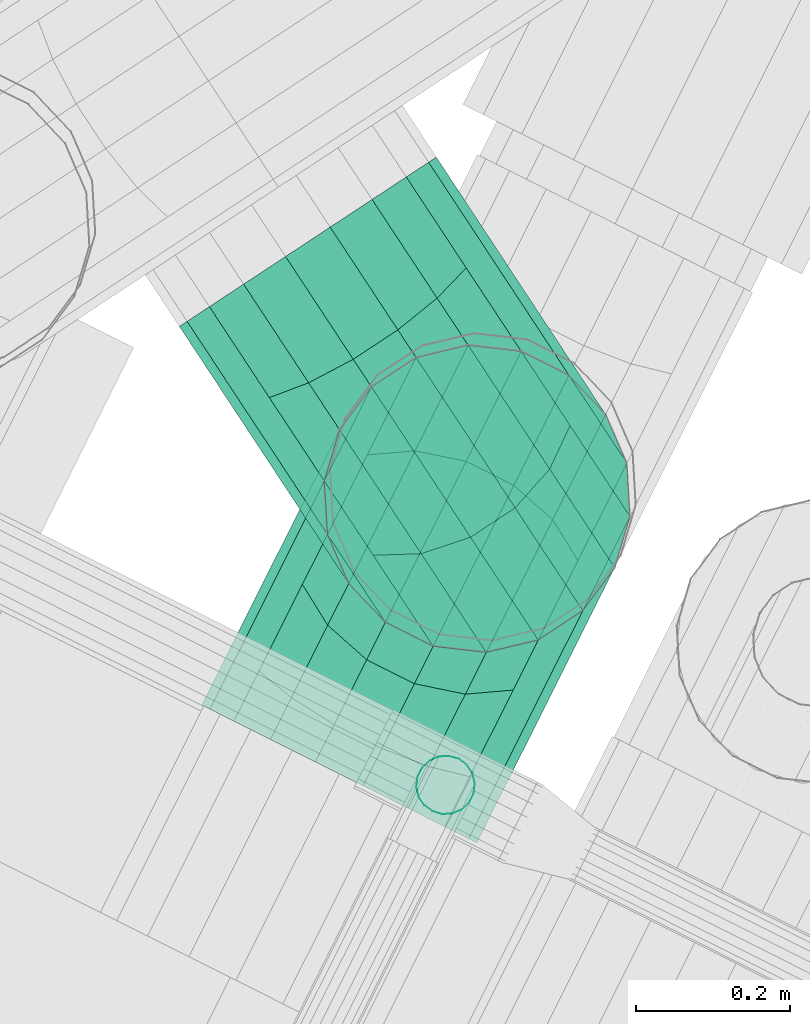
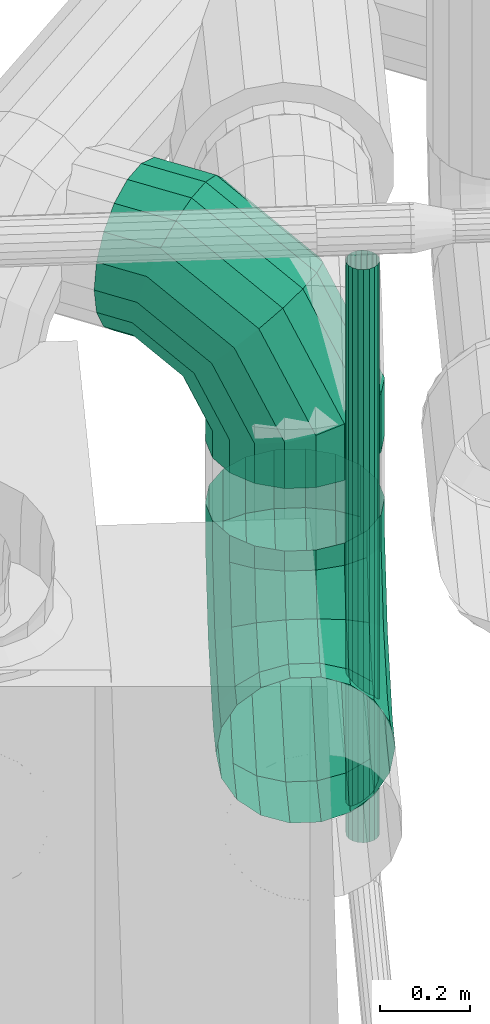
# One storey, part 14 of 206: 3 flow fittings, 1 flow segment.
"""IFC2X3 building model written with IfcOpenShell, lengths in metres."""

from ifc_helpers import new_model, si_unit, derived_unit, direction, frame, origin, place, context, subcontext, project, spatial, face_set, surface_model, source, transform, mapped, material, type_object, type_shapes, element, save


model = new_model("IFC2X3")

# Units and contexts
model_context = context("Model", 3, precision=5.2338327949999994e-05, world=origin(), true_north=direction((0.0, 1.0)))
body_context = subcontext(model_context, "Body", "Model", "MODEL_VIEW")
ifc_project = project(units=[si_unit("LENGTHUNIT", "METRE"), si_unit("AREAUNIT", "SQUARE_METRE"), si_unit("VOLUMEUNIT", "CUBIC_METRE"), si_unit("MASSUNIT", "GRAM", prefix="KILO"), si_unit("PLANEANGLEUNIT", "RADIAN"), derived_unit("THERMALTRANSMITTANCEUNIT", [(si_unit("MASSUNIT", "GRAM", prefix="KILO"), 1), (si_unit("THERMODYNAMICTEMPERATUREUNIT", "KELVIN"), -1), (si_unit("TIMEUNIT", "SECOND"), -3)])], contexts=[model_context])

# Site, building, storey
site_placement = place(None, frame((0.0, 0.0, 0.0), z_axis=(0.0, 0.0, 1.0), x_axis=(0.8939966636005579, -0.4480736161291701, 0.0)))
site = spatial("IfcSite", under=ifc_project, at=site_placement, Name="Default", CompositionType="ELEMENT")
building_placement = place(site_placement, origin())
building = spatial("IfcBuilding", under=site, at=building_placement, CompositionType="ELEMENT")
storey_placement = place(building_placement, origin())
storey = spatial("IfcBuildingStorey", under=building, at=storey_placement, Name="Erdgeschoss", CompositionType="ELEMENT", Elevation=0.0)

# Flow fittings
ifc_material_1 = material(Name="IfcSurfaceStyle #251447")
distribution_element_type_1 = type_object("IfcDistributionElementType", material=ifc_material_1)
shared_shape_1 = source(origin(), body_context, "Body", "SurfaceModel", [
    surface_model("IfcFaceBasedSurfaceModel", [(24.760508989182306, 8.028208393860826, 1.2300000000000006), (24.77257046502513, 8.028208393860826, 1.2984040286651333), (24.77257046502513, 8.11705926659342, 1.2984040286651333), (24.760508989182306, 8.135388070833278, 1.2300000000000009), (24.80730010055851, 8.028208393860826, 1.3585575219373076), (24.80730010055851, 8.10094118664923, 1.3585575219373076), (24.860508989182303, 8.028208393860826, 1.4032050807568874), (24.860508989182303, 8.088977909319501, 1.4032050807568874), (24.92577935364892, 8.028208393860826, 1.4269615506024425), (24.92577935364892, 8.082612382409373, 1.4269615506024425), (24.995238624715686, 8.028208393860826, 1.4269615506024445), (24.995238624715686, 8.082612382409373, 1.4269615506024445), (25.060508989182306, 8.028208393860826, 1.4032050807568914), (25.060508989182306, 8.088977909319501, 1.4032050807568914), (25.1137178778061, 8.028208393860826, 1.3585575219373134), (25.1137178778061, 8.10094118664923, 1.3585575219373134), (25.14844751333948, 8.028208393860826, 1.2984040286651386), (25.14844751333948, 8.117059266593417, 1.2984040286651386), (25.16050898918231, 8.028208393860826, 1.230000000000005), (25.160508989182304, 8.135388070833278, 1.2299999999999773), (25.14844751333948, 8.028208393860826, 1.1615959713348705), (25.14844751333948, 8.153716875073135, 1.1615959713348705), (25.1137178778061, 8.028208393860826, 1.1014424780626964), (25.1137178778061, 8.169834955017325, 1.1014424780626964), (25.06050898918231, 8.028208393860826, 1.0567949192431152), (25.06050898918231, 8.181798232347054, 1.0567949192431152), (24.99523862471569, 8.028208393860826, 1.0330384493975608), (24.99523862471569, 8.188163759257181, 1.0330384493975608), (24.925779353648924, 8.028208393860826, 1.03303844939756), (24.925779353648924, 8.188163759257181, 1.03303844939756), (24.860508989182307, 8.028208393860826, 1.0567949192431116), (24.860508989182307, 8.181798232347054, 1.0567949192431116), (24.807300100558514, 8.028208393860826, 1.1014424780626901), (24.807300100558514, 8.169834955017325, 1.1014424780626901), (24.77257046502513, 8.028208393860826, 1.1615959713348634), (24.77257046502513, 8.153716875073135, 1.1615959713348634), (24.772570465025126, 8.270953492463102, 1.3872549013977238), (24.760508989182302, 8.321028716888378, 1.3371796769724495), (24.80730010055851, 8.22691807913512, 1.4312903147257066), (24.8605089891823, 8.194233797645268, 1.4639745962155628), (24.92577935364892, 8.176842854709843, 1.4813655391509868), (24.99523862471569, 8.176842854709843, 1.481365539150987), (25.060508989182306, 8.194233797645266, 1.4639745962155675), (25.1137178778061, 8.22691807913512, 1.4312903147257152), (25.14844751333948, 8.2709534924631, 1.3872549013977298), (25.160508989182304, 8.321028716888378, 1.3371796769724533), (25.148447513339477, 8.371103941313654, 1.2871044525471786), (25.1137178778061, 8.415139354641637, 1.2430690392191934), (25.060508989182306, 8.447823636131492, 1.210384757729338), (24.99523862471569, 8.465214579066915, 1.192993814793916), (24.92577935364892, 8.465214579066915, 1.192993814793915), (24.860508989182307, 8.447823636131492, 1.210384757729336), (24.807300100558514, 8.415139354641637, 1.2430690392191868), (24.772570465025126, 8.371103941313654, 1.2871044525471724), (24.772570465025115, 8.359804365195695, 1.54114912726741), (24.760508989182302, 8.42820839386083, 1.5228203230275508), (24.807300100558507, 8.29965087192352, 1.557267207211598), (24.8605089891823, 8.255003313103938, 1.5692304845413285), (24.92577935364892, 8.231246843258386, 1.5755960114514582), (24.995238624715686, 8.231246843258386, 1.5755960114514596), (25.060508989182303, 8.25500331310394, 1.56923048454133), (25.113717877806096, 8.29965087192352, 1.557267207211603), (25.148447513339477, 8.359804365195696, 1.541149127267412), (25.160508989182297, 8.428208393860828, 1.5228203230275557), (25.148447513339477, 8.49661242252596, 1.504491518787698), (25.1137178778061, 8.556765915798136, 1.488373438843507), (25.060508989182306, 8.601413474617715, 1.476410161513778), (24.99523862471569, 8.625169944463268, 1.4700446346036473), (24.92577935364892, 8.625169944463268, 1.4700446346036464), (24.8605089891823, 8.601413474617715, 1.4764101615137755), (24.80730010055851, 8.556765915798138, 1.4883734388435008), (24.772570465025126, 8.496612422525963, 1.5044915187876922), (24.77257046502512, 8.359804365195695, 1.6299999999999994), (24.760508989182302, 8.428208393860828, 1.6299999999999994), (24.807300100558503, 8.29965087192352, 1.6300000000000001), (24.8605089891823, 8.255003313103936, 1.6300000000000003), (24.925779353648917, 8.231246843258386, 1.6300000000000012), (24.995238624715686, 8.231246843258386, 1.630000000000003), (25.0605089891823, 8.25500331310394, 1.630000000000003), (25.113717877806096, 8.299650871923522, 1.6300000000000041), (25.148447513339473, 8.359804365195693, 1.6300000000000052), (25.160508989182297, 8.428208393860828, 1.6300000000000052), (25.148447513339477, 8.496612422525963, 1.6300000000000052), (25.113717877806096, 8.556765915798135, 1.6300000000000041), (25.0605089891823, 8.601413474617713, 1.630000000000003), (24.995238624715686, 8.625169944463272, 1.6300000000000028), (24.925779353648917, 8.62516994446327, 1.6300000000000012), (24.860508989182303, 8.601413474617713, 1.6300000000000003), (24.807300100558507, 8.556765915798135, 1.6300000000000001), (24.77257046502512, 8.496612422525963, 1.6299999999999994)], [face_set([[[0, 1, 2, 3]], [[1, 4, 5, 2]], [[4, 6, 7, 5]], [[6, 8, 9, 7]], [[8, 10, 11, 9]], [[10, 12, 13, 11]], [[12, 14, 15, 13]], [[14, 16, 17, 15]], [[16, 18, 19, 17]], [[18, 20, 21, 19]], [[20, 22, 23, 21]], [[22, 24, 25, 23]], [[24, 26, 27, 25]], [[26, 28, 29, 27]], [[28, 30, 31, 29]], [[30, 32, 33, 31]], [[32, 34, 35, 33]], [[34, 0, 3, 35]], [[3, 2, 36, 37]], [[2, 5, 38, 36]], [[5, 7, 39, 38]], [[7, 9, 40, 39]], [[9, 11, 41, 40]], [[11, 13, 42, 41]], [[13, 15, 43, 42]], [[15, 17, 44, 43]], [[17, 19, 45, 44]], [[19, 21, 46, 45]], [[21, 23, 47, 46]], [[23, 25, 48, 47]], [[25, 27, 49, 48]], [[27, 29, 50, 49]], [[29, 31, 51, 50]], [[31, 33, 52, 51]], [[33, 35, 53, 52]], [[35, 3, 37, 53]], [[37, 36, 54, 55]], [[36, 38, 56, 54]], [[38, 39, 57, 56]], [[39, 40, 58, 57]], [[40, 41, 59, 58]], [[41, 42, 60, 59]], [[42, 43, 61, 60]], [[43, 44, 62, 61]], [[44, 45, 63, 62]], [[45, 46, 64, 63]], [[46, 47, 65, 64]], [[47, 48, 66, 65]], [[48, 49, 67, 66]], [[49, 50, 68, 67]], [[50, 51, 69, 68]], [[51, 52, 70, 69]], [[52, 53, 71, 70]], [[53, 37, 55, 71]], [[55, 54, 72, 73]], [[54, 56, 74, 72]], [[56, 57, 75, 74]], [[57, 58, 76, 75]], [[58, 59, 77, 76]], [[59, 60, 78, 77]], [[60, 61, 79, 78]], [[61, 62, 80, 79]], [[62, 63, 81, 80]], [[63, 64, 82, 81]], [[64, 65, 83, 82]], [[65, 66, 84, 83]], [[66, 67, 85, 84]], [[67, 68, 86, 85]], [[68, 69, 87, 86]], [[69, 70, 88, 87]], [[70, 71, 89, 88]], [[71, 55, 73, 89]]])]),
])
type_shapes(distribution_element_type_1, [shared_shape_1])
flow_fitting_1_placement = place(storey_placement, origin())
element("IfcFlowFitting", 1, at=flow_fitting_1_placement, inside=storey, type_object=distribution_element_type_1, material=ifc_material_1, Name="Segmentbogen 4 teilig", ObjectType="Segmentbogen 4 teilig", context=body_context, shape_type="MappedRepresentation", body=[
    mapped(shared_shape_1, transform((0.0, 0.0, 0.0), scale=1.0)),
])
distribution_element_type_2 = type_object("IfcDistributionElementType", Name="Segmentbogen 4 teilig 280773:Segmentbogen 4 teilig 280773", material=ifc_material_1)
shared_shape_2 = source(origin(), body_context, "Body", "SurfaceModel", [
    surface_model("IfcFaceBasedSurfaceModel", [(25.060508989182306, 8.601413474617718, 1.7999999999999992), (24.995238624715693, 8.625169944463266, 1.7999999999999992), (24.995238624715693, 8.625169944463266, 1.888850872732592), (25.060508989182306, 8.601413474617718, 1.9071796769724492), (24.92577935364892, 8.62516994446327, 1.7999999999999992), (24.92577935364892, 8.62516994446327, 1.8727327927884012), (24.860508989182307, 8.601413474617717, 1.7999999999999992), (24.860508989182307, 8.601413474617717, 1.8607695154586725), (24.80730010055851, 8.556765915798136, 1.7999999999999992), (24.80730010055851, 8.556765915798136, 1.854403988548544), (24.77257046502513, 8.496612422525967, 1.7999999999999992), (24.77257046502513, 8.496612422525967, 1.854403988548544), (24.76050898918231, 8.42820839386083, 1.7999999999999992), (24.76050898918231, 8.42820839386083, 1.8607695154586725), (24.77257046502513, 8.3598043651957, 1.7999999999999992), (24.77257046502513, 8.3598043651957, 1.8727327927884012), (24.80730010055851, 8.299650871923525, 1.7999999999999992), (24.80730010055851, 8.299650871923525, 1.8888508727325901), (24.860508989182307, 8.255003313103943, 1.7999999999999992), (24.860508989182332, 8.255003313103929, 1.9071796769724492), (24.92577935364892, 8.231246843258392, 1.7999999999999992), (24.92577935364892, 8.231246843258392, 1.9255084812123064), (24.99523862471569, 8.23124684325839, 1.7999999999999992), (24.99523862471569, 8.23124684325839, 1.941626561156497), (25.060508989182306, 8.255003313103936, 1.7999999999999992), (25.060508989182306, 8.255003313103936, 1.9535898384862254), (25.113717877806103, 8.29965087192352, 1.7999999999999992), (25.113717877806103, 8.29965087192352, 1.959955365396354), (25.14844751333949, 8.359804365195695, 1.7999999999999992), (25.14844751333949, 8.359804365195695, 1.959955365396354), (25.160508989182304, 8.428208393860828, 1.7999999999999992), (25.160508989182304, 8.428208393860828, 1.9535898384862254), (25.14844751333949, 8.496612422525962, 1.7999999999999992), (25.14844751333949, 8.496612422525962, 1.941626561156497), (25.113717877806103, 8.556765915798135, 1.7999999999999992), (25.113717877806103, 8.556765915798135, 1.9255084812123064), (24.918291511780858, 8.669595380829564, 2.0427450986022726), (24.96768866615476, 8.655003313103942, 2.092820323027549), (24.86279090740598, 8.661536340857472, 1.9987096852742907), (24.807881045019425, 8.631798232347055, 1.9660254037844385), (24.760184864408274, 8.583967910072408, 1.948634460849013), (24.725455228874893, 8.523814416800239, 1.948634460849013), (24.707881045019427, 8.458593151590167, 1.9660254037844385), (24.709582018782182, 8.396170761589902, 1.998709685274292), (24.73035298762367, 8.344076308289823, 2.042745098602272), (24.767688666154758, 8.308593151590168, 2.0928203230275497), (24.817085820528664, 8.294001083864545, 2.1428955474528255), (24.872586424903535, 8.302060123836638, 2.18693096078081), (24.927496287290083, 8.331798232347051, 2.2196152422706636), (24.97519246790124, 8.379628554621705, 2.237006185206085), (25.009922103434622, 8.439782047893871, 2.2370061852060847), (25.02749628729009, 8.50500331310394, 2.219615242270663), (25.025795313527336, 8.56742570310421, 2.1869309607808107), (25.005024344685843, 8.61952015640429, 2.1428955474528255), (24.785015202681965, 8.746542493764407, 2.131595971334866), (24.806919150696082, 8.747823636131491, 2.2), (24.75369171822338, 8.724524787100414, 2.0714424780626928), (24.716726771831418, 8.684426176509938, 2.0267949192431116), (24.678578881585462, 8.631083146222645, 2.0030384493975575), (24.643849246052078, 8.570929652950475, 2.003038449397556), (24.616726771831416, 8.511221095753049, 2.0267949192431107), (24.600482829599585, 8.459159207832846, 2.0714424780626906), (24.597076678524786, 8.421023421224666, 2.1315959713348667), (24.606919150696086, 8.401413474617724, 2.1999999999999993), (24.628823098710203, 8.402694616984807, 2.268404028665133), (24.660146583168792, 8.424712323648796, 2.3285575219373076), (24.697111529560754, 8.464810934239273, 2.373205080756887), (24.735259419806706, 8.518153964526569, 2.396961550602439), (24.769989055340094, 8.578307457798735, 2.3969615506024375), (24.797111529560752, 8.638016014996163, 2.373205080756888), (24.813355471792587, 8.690077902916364, 2.328557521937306), (24.816761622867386, 8.728213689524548, 2.2684040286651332), (24.70806808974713, 8.790967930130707, 2.131595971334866), (24.714098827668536, 8.801413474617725, 2.1999999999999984), (24.690703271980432, 8.760891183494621, 2.071442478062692), (24.664098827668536, 8.714810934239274, 2.0267949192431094), (24.63146364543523, 8.658285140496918, 2.0030384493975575), (24.59673400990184, 8.598131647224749, 2.0030384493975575), (24.56409882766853, 8.541605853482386, 2.0267949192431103), (24.53749438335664, 8.495525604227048, 2.0714424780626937), (24.520129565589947, 8.465448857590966, 2.1315959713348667), (24.51409882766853, 8.455003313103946, 2.199999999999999), (24.520129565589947, 8.465448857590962, 2.2684040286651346), (24.53749438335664, 8.495525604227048, 2.3285575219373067), (24.56409882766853, 8.541605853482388, 2.373205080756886), (24.59673400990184, 8.598131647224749, 2.3969615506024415), (24.63146364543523, 8.658285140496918, 2.3969615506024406), (24.664098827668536, 8.714810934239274, 2.373205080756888), (24.690703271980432, 8.76089118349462, 2.328557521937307), (24.70806808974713, 8.790967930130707, 2.2684040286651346)], [face_set([[[0, 1, 2, 3]], [[1, 4, 5, 2]], [[4, 6, 7, 5]], [[6, 8, 9, 7]], [[8, 10, 11, 9]], [[10, 12, 13, 11]], [[12, 14, 15, 13]], [[14, 16, 17, 15]], [[16, 18, 19, 17]], [[18, 20, 21, 19]], [[20, 22, 23, 21]], [[22, 24, 25, 23]], [[24, 26, 27, 25]], [[26, 28, 29, 27]], [[28, 30, 31, 29]], [[30, 32, 33, 31]], [[32, 34, 35, 33]], [[34, 0, 3, 35]], [[3, 2, 36, 37]], [[2, 5, 38, 36]], [[5, 7, 39, 38]], [[7, 9, 40, 39]], [[9, 11, 41, 40]], [[11, 13, 42, 41]], [[13, 15, 43, 42]], [[15, 17, 44, 43]], [[17, 19, 45, 44]], [[19, 21, 46, 45]], [[21, 23, 47, 46]], [[23, 25, 48, 47]], [[25, 27, 49, 48]], [[27, 29, 50, 49]], [[29, 31, 51, 50]], [[31, 33, 52, 51]], [[33, 35, 53, 52]], [[35, 3, 37, 53]], [[37, 36, 54, 55]], [[36, 38, 56, 54]], [[38, 39, 57, 56]], [[39, 40, 58, 57]], [[40, 41, 59, 58]], [[41, 42, 60, 59]], [[42, 43, 61, 60]], [[43, 44, 62, 61]], [[44, 45, 63, 62]], [[45, 46, 64, 63]], [[46, 47, 65, 64]], [[47, 48, 66, 65]], [[48, 49, 67, 66]], [[49, 50, 68, 67]], [[50, 51, 69, 68]], [[51, 52, 70, 69]], [[52, 53, 71, 70]], [[53, 37, 55, 71]], [[55, 54, 72, 73]], [[54, 56, 74, 72]], [[56, 57, 75, 74]], [[57, 58, 76, 75]], [[58, 59, 77, 76]], [[59, 60, 78, 77]], [[60, 61, 79, 78]], [[61, 62, 80, 79]], [[62, 63, 81, 80]], [[63, 64, 82, 81]], [[64, 65, 83, 82]], [[65, 66, 84, 83]], [[66, 67, 85, 84]], [[67, 68, 86, 85]], [[68, 69, 87, 86]], [[69, 70, 88, 87]], [[70, 71, 89, 88]], [[71, 55, 73, 89]]])]),
])
type_shapes(distribution_element_type_2, [shared_shape_2])
flow_fitting_2_placement = place(storey_placement, origin())
element("IfcFlowFitting", 2, at=flow_fitting_2_placement, inside=storey, type_object=distribution_element_type_2, material=ifc_material_1, Name="Segmentbogen 4 teilig", ObjectType="Segmentbogen 4 teilig", context=body_context, shape_type="MappedRepresentation", body=[
    mapped(shared_shape_2, transform((0.0, 0.0, 0.0), scale=1.0)),
])
distribution_element_type_3 = type_object("IfcDistributionElementType", material=ifc_material_1)
shared_shape_3 = source(origin(), body_context, "Body", "SurfaceModel", [
    surface_model("IfcFaceBasedSurfaceModel", [(24.760508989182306, 8.028208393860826, 1.2300000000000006), (24.77257046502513, 8.028208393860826, 1.2984040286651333), (24.77257046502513, 8.11705926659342, 1.2984040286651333), (24.760508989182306, 8.135388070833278, 1.2300000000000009), (24.80730010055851, 8.028208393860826, 1.3585575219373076), (24.80730010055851, 8.10094118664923, 1.3585575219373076), (24.860508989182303, 8.028208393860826, 1.4032050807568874), (24.860508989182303, 8.088977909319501, 1.4032050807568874), (24.92577935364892, 8.028208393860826, 1.4269615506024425), (24.92577935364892, 8.082612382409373, 1.4269615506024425), (24.995238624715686, 8.028208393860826, 1.4269615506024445), (24.995238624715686, 8.082612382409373, 1.4269615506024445), (25.060508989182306, 8.028208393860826, 1.4032050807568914), (25.060508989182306, 8.088977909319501, 1.4032050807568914), (25.1137178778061, 8.028208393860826, 1.3585575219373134), (25.1137178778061, 8.10094118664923, 1.3585575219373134), (25.14844751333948, 8.028208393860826, 1.2984040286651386), (25.14844751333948, 8.117059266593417, 1.2984040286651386), (25.16050898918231, 8.028208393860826, 1.230000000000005), (25.160508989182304, 8.135388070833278, 1.2299999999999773), (25.14844751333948, 8.028208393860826, 1.1615959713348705), (25.14844751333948, 8.153716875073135, 1.1615959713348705), (25.1137178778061, 8.028208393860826, 1.1014424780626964), (25.1137178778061, 8.169834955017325, 1.1014424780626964), (25.06050898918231, 8.028208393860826, 1.0567949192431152), (25.06050898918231, 8.181798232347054, 1.0567949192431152), (24.99523862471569, 8.028208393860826, 1.0330384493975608), (24.99523862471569, 8.188163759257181, 1.0330384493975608), (24.925779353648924, 8.028208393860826, 1.03303844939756), (24.925779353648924, 8.188163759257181, 1.03303844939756), (24.860508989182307, 8.028208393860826, 1.0567949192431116), (24.860508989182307, 8.181798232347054, 1.0567949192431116), (24.807300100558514, 8.028208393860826, 1.1014424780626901), (24.807300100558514, 8.169834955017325, 1.1014424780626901), (24.77257046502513, 8.028208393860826, 1.1615959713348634), (24.77257046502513, 8.153716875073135, 1.1615959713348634), (24.772570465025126, 8.270953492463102, 1.3872549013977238), (24.760508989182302, 8.321028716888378, 1.3371796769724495), (24.80730010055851, 8.22691807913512, 1.4312903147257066), (24.8605089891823, 8.194233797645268, 1.4639745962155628), (24.92577935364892, 8.176842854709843, 1.4813655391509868), (24.99523862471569, 8.176842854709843, 1.481365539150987), (25.060508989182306, 8.194233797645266, 1.4639745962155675), (25.1137178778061, 8.22691807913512, 1.4312903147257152), (25.14844751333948, 8.2709534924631, 1.3872549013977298), (25.160508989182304, 8.321028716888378, 1.3371796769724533), (25.148447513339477, 8.371103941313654, 1.2871044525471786), (25.1137178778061, 8.415139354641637, 1.2430690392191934), (25.060508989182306, 8.447823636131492, 1.210384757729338), (24.99523862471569, 8.465214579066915, 1.192993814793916), (24.92577935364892, 8.465214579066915, 1.192993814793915), (24.860508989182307, 8.447823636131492, 1.210384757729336), (24.807300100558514, 8.415139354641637, 1.2430690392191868), (24.772570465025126, 8.371103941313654, 1.2871044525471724), (24.772570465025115, 8.359804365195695, 1.54114912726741), (24.760508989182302, 8.42820839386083, 1.5228203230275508), (24.807300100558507, 8.29965087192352, 1.557267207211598), (24.8605089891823, 8.255003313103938, 1.5692304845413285), (24.92577935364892, 8.231246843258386, 1.5755960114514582), (24.995238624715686, 8.231246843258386, 1.5755960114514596), (25.060508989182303, 8.25500331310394, 1.56923048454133), (25.113717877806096, 8.29965087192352, 1.557267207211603), (25.148447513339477, 8.359804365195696, 1.541149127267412), (25.160508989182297, 8.428208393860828, 1.5228203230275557), (25.148447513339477, 8.49661242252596, 1.504491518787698), (25.1137178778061, 8.556765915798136, 1.488373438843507), (25.060508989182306, 8.601413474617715, 1.476410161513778), (24.99523862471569, 8.625169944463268, 1.4700446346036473), (24.92577935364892, 8.625169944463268, 1.4700446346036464), (24.8605089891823, 8.601413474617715, 1.4764101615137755), (24.80730010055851, 8.556765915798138, 1.4883734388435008), (24.772570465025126, 8.496612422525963, 1.5044915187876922), (24.77257046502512, 8.359804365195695, 1.6299999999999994), (24.760508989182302, 8.428208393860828, 1.6299999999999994), (24.807300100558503, 8.29965087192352, 1.6300000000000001), (24.8605089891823, 8.255003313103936, 1.6300000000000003), (24.925779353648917, 8.231246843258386, 1.6300000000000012), (24.995238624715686, 8.231246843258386, 1.630000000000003), (25.0605089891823, 8.25500331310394, 1.630000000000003), (25.113717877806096, 8.299650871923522, 1.6300000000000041), (25.148447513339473, 8.359804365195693, 1.6300000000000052), (25.160508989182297, 8.428208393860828, 1.6300000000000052), (25.148447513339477, 8.496612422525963, 1.6300000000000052), (25.113717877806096, 8.556765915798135, 1.6300000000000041), (25.0605089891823, 8.601413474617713, 1.630000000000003), (24.995238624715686, 8.625169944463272, 1.6300000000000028), (24.925779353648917, 8.62516994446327, 1.6300000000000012), (24.860508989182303, 8.601413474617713, 1.6300000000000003), (24.807300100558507, 8.556765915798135, 1.6300000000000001), (24.77257046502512, 8.496612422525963, 1.6299999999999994)], [face_set([[[0, 1, 2, 3]], [[1, 4, 5, 2]], [[4, 6, 7, 5]], [[6, 8, 9, 7]], [[8, 10, 11, 9]], [[10, 12, 13, 11]], [[12, 14, 15, 13]], [[14, 16, 17, 15]], [[16, 18, 19, 17]], [[18, 20, 21, 19]], [[20, 22, 23, 21]], [[22, 24, 25, 23]], [[24, 26, 27, 25]], [[26, 28, 29, 27]], [[28, 30, 31, 29]], [[30, 32, 33, 31]], [[32, 34, 35, 33]], [[34, 0, 3, 35]], [[3, 2, 36, 37]], [[2, 5, 38, 36]], [[5, 7, 39, 38]], [[7, 9, 40, 39]], [[9, 11, 41, 40]], [[11, 13, 42, 41]], [[13, 15, 43, 42]], [[15, 17, 44, 43]], [[17, 19, 45, 44]], [[19, 21, 46, 45]], [[21, 23, 47, 46]], [[23, 25, 48, 47]], [[25, 27, 49, 48]], [[27, 29, 50, 49]], [[29, 31, 51, 50]], [[31, 33, 52, 51]], [[33, 35, 53, 52]], [[35, 3, 37, 53]], [[37, 36, 54, 55]], [[36, 38, 56, 54]], [[38, 39, 57, 56]], [[39, 40, 58, 57]], [[40, 41, 59, 58]], [[41, 42, 60, 59]], [[42, 43, 61, 60]], [[43, 44, 62, 61]], [[44, 45, 63, 62]], [[45, 46, 64, 63]], [[46, 47, 65, 64]], [[47, 48, 66, 65]], [[48, 49, 67, 66]], [[49, 50, 68, 67]], [[50, 51, 69, 68]], [[51, 52, 70, 69]], [[52, 53, 71, 70]], [[53, 37, 55, 71]], [[55, 54, 72, 73]], [[54, 56, 74, 72]], [[56, 57, 75, 74]], [[57, 58, 76, 75]], [[58, 59, 77, 76]], [[59, 60, 78, 77]], [[60, 61, 79, 78]], [[61, 62, 80, 79]], [[62, 63, 81, 80]], [[63, 64, 82, 81]], [[64, 65, 83, 82]], [[65, 66, 84, 83]], [[66, 67, 85, 84]], [[67, 68, 86, 85]], [[68, 69, 87, 86]], [[69, 70, 88, 87]], [[70, 71, 89, 88]], [[71, 55, 73, 89]]])]),
])
type_shapes(distribution_element_type_3, [shared_shape_3])
flow_fitting_3_placement = place(storey_placement, origin())
element("IfcFlowFitting", 3, at=flow_fitting_3_placement, inside=storey, type_object=distribution_element_type_3, material=ifc_material_1, Name="Segmentbogen 4 teilig", ObjectType="Segmentbogen 4 teilig", context=body_context, shape_type="MappedRepresentation", body=[
    mapped(shared_shape_3, transform((0.0, 0.0, 0.0), scale=1.0)),
])

# Flow segment
ifc_material_2 = material(Name="IfcSurfaceStyle #352577")
distribution_element_type_4 = type_object("IfcDistributionElementType", Name="Stahlrohr nach DIN 2448 605049:Stahlrohr nach DIN 2448 605049", material=ifc_material_2)
shared_shape_4 = source(origin(), body_context, "Body", "SurfaceModel", [
    surface_model("IfcFaceBasedSurfaceModel", [(25.09064054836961, 8.115212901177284, 2.5221641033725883), (25.10365441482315, 8.112918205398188, 2.5221641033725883), (25.103654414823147, 8.112918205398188, 0.9649999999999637), (25.090640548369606, 8.115212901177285, 0.9649999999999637), (25.115098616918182, 8.10631089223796, 2.5221641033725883), (25.115098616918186, 8.106310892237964, 0.9649999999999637), (25.12359281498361, 8.096187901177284, 2.5221641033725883), (25.12359281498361, 8.096187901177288, 0.9649999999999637), (25.12811248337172, 8.083770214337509, 2.5221641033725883), (25.128112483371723, 8.083770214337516, 0.9649999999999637), (25.12811248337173, 8.070555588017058, 2.5221641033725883), (25.12811248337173, 8.070555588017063, 0.9649999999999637), (25.123592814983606, 8.058137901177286, 2.5221641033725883), (25.12359281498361, 8.058137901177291, 0.9649999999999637), (25.115098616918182, 8.048014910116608, 2.5221641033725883), (25.115098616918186, 8.048014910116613, 0.9649999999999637), (25.103654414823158, 8.04140759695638, 2.5221641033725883), (25.103654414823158, 8.041407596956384, 0.9649999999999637), (25.090640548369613, 8.039112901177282, 2.5221641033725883), (25.090640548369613, 8.039112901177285, 0.9649999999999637), (25.077626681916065, 8.041407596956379, 2.5221641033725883), (25.077626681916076, 8.041407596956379, 0.9649999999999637), (25.066182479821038, 8.048014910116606, 2.5221641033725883), (25.06618247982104, 8.048014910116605, 0.9649999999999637), (25.057688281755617, 8.058137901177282, 2.5221641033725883), (25.057688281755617, 8.058137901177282, 0.9649999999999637), (25.053168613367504, 8.070555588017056, 2.5221641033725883), (25.053168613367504, 8.070555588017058, 0.9649999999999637), (25.053168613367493, 8.083770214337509, 2.5221641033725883), (25.053168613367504, 8.083770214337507, 0.9649999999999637), (25.057688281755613, 8.09618790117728, 2.5221641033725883), (25.05768828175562, 8.096187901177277, 0.9649999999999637), (25.066182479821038, 8.106310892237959, 2.5221641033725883), (25.066182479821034, 8.106310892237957, 0.9649999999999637), (25.077626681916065, 8.112918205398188, 2.5221641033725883), (25.077626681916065, 8.112918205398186, 0.9649999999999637)], [face_set([[[0, 1, 2, 3]], [[1, 4, 5, 2]], [[4, 6, 7, 5]], [[6, 8, 9, 7]], [[8, 10, 11, 9]], [[10, 12, 13, 11]], [[12, 14, 15, 13]], [[14, 16, 17, 15]], [[16, 18, 19, 17]], [[18, 20, 21, 19]], [[20, 22, 23, 21]], [[22, 24, 25, 23]], [[24, 26, 27, 25]], [[26, 28, 29, 27]], [[28, 30, 31, 29]], [[30, 32, 33, 31]], [[32, 34, 35, 33]], [[34, 0, 3, 35]]])]),
])
type_shapes(distribution_element_type_4, [shared_shape_4])
flow_segment_placement = place(storey_placement, origin())
element("IfcFlowSegment", 4, at=flow_segment_placement, inside=storey, type_object=distribution_element_type_4, material=ifc_material_2, Name="Stahlrohr nach DIN 2448", ObjectType="Stahlrohr nach DIN 2448", context=body_context, shape_type="MappedRepresentation", body=[
    mapped(shared_shape_4, transform((0.0, 0.0, 0.0), scale=1.0)),
])

save(model, "model.ifc")
